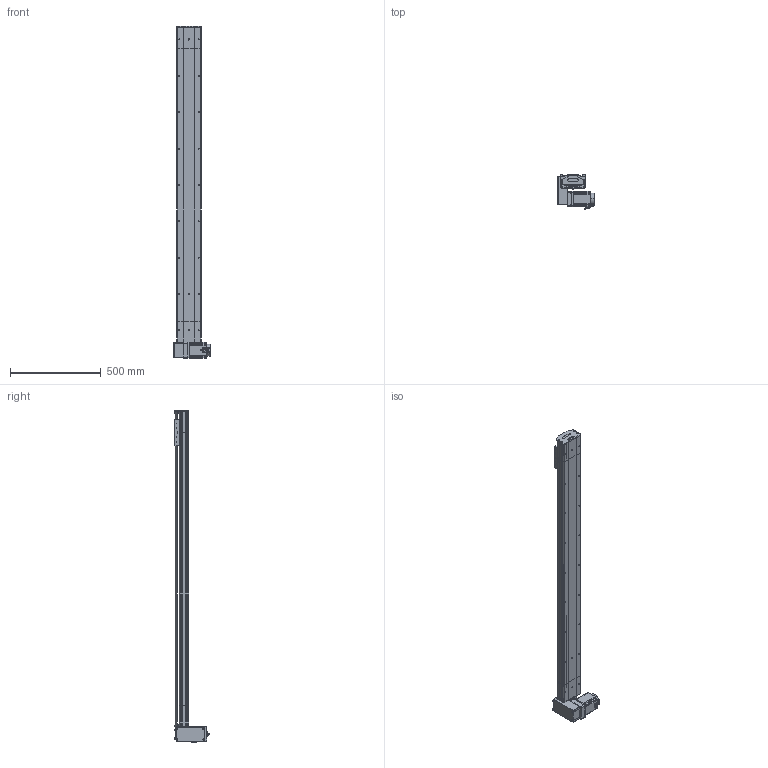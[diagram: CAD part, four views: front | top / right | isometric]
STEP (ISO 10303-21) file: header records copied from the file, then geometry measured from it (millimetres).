
FILE_DESCRIPTION (( 'STEP AP214' ), '1' );
FILE_NAME ('D14 TBH RU S1500.STEP', '2010-06-29T14:00:36', ( 'Conseil Régional Haute-Normandie' ), ( 'Conseil Régional Haute-Normandie' ), 'SwSTEP 2.0', 'SolidWorks 2010', '' );
FILE_SCHEMA (( 'AUTOMOTIVE_DESIGN' ));
Length unit declared in the file: millimetre
Products named in the file (39): Plaque racord D14_Default; Cache_Default; couvercle D14_Default; D14 TBH RU S1500; couvercle D14 course L1500_Default; Tail D14B_Default; corpl tail D14_Default; vis M5 L8 90°_Default; D14 couroie L1500_Default; Cache arbre_Default; renvoi RH_Default; plaque de  bout head D14 RU_Default; vis M5 L5_Default; Couroie_Default; plaque de  bout tail D14_Default; Vis M5 L16-2_Default; Arbre+rail head D14; corp head D14_Default; D14 TB H RU_Default; Cvis M5 L70_Default; poulie tail_Default; tete d''axe haut D14; Conecteur2_Default; poulie head_Default; couroie 2_Default; avant 90BLDC100A-640; codeur 90BLDC100-640; Conecteur_Default; Moteur motionking 90BLDC100A-640; corps 90BLDC100A-640; couvercle D14 head_Default; chariot D14B_Default; vis M5 L16_Default; corpl 1500_Default; Chariot D14; vis M5 L12_Default; guide D14; Arbre+rail tail D14; Rail + couroie D14 Course 1500 
Assembly tree (68 placements, depth 4):
  D14 TBH RU S1500
    Tail D14B_Default
      vis M5 L8 90°_Default  x2
      corpl tail D14_Default
      couvercle D14_Default
      tete d''axe haut D14
      poulie tail_Default
      Arbre+rail tail D14
      vis M5 L16_Default  x2
      vis M5 L12_Default  x4
      plaque de  bout tail D14_Default
      Couroie_Default
    chariot D14B_Default
      vis M5 L12_Default  x4
      guide D14  x2
      Chariot D14
    D14 TB H RU_Default
      vis M5 L12_Default  x12
      Cvis M5 L70_Default  x4
      Vis M5 L16-2_Default  x4
      vis M5 L5_Default  x2
      renvoi RH_Default
      poulie head_Default
      couvercle D14 head_Default
      Cache_Default  x2
      couroie 2_Default
      Moteur motionking 90BLDC100A-640
        codeur 90BLDC100-640
        Conecteur2_Default
        corps 90BLDC100A-640
        Conecteur_Default
        avant 90BLDC100A-640
      Cache arbre_Default
      plaque de  bout head D14 RU_Default
      Arbre+rail head D14
      corp head D14_Default
      Plaque racord D14_Default
    D14 couroie L1500_Default
      Rail + couroie D14 Course 1500 
      couvercle D14 course L1500_Default
      corpl 1500_Default
Bounding box: 207.2 x 191.1 x 1825.75 mm (x, y, z)
Volume: 7608444.4 mm3; surface area: 2581621.5 mm2
Topology: 92 solids, 92 shells, 2645 faces, 6467 edges, 4170 vertices
Faces by surface type: plane 1593, cylinder 739, bspline 136, torus 89, cone 84, sphere 4
Entity records: 79640 total; most frequent: CARTESIAN_POINT 23621, ORIENTED_EDGE 9794, DIRECTION 9588, EDGE_CURVE 4897, LINE 3286, VECTOR 3286, VERTEX_POINT 3220, AXIS2_PLACEMENT_3D 3151
